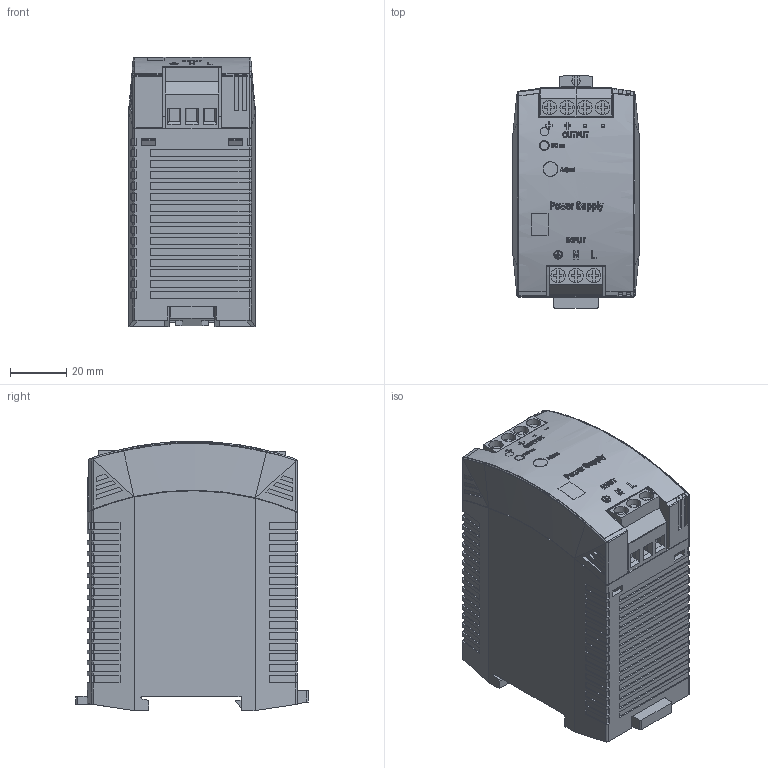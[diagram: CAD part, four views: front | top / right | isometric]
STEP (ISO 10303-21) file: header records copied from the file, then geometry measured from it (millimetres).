
FILE_DESCRIPTION((''),'2;1');
FILE_NAME('C:\Users\rahns\Desktop\Sylvia Info´s\Dateien für Vertrieb\ML60\242\md3_ml60_242.stp','2012-06-20T13:26:05',('rahns'),(''),'Autodesk Inventor 2009','Autodesk Inventor 2009','');
FILE_SCHEMA(('AUTOMOTIVE_DESIGN { 1 0 10303 214 1 1 1 1 }'));
Length unit declared in the file: millimetre
Products named in the file (7): 377; HOUSING BODY 377; HOUSING COVER 377; SLIDER 322; TERMINAL 3P R6,35 T; TERMINAL 2P R6,35 T; FRONTFOIL 377
Assembly tree (7 placements, depth 2):
  377
    HOUSING BODY 377
    HOUSING COVER 377
    SLIDER 322
    TERMINAL 3P R6,35 T
    TERMINAL 2P R6,35 T  x2
    FRONTFOIL 377
Bounding box: 45 x 83 x 96.06 mm (x, y, z)
Volume: 292969.9 mm3; surface area: 52073.3 mm2
Topology: 12 solids, 12 shells, 1643 faces, 4466 edges, 2959 vertices
Faces by surface type: plane 1163, bspline 240, cylinder 233, cone 7
Full cylindrical faces by diameter (mm): 0.05 x4, 3 x2, 5.15 x7, 5.2 x1
Entity records: 127149 total; most frequent: CARTESIAN_POINT 88037, ORIENTED_EDGE 8526, DIRECTION 6786, EDGE_CURVE 4263, VECTOR 2926, LINE 2926, VERTEX_POINT 2833, AXIS2_PLACEMENT_3D 1930
